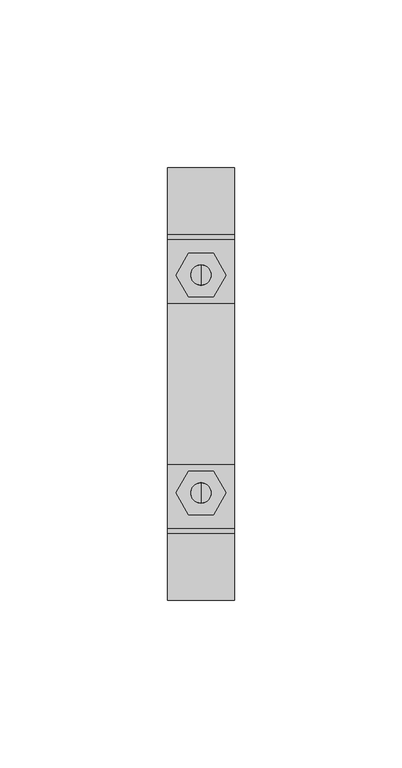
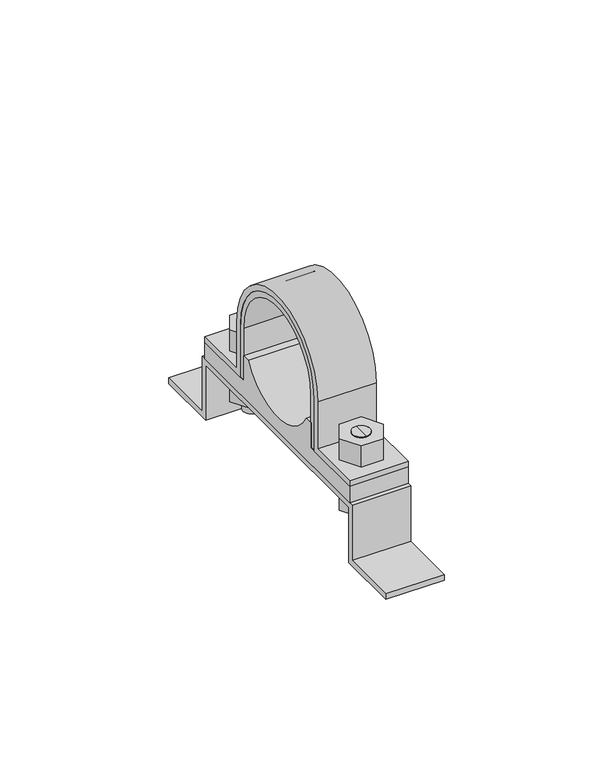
"""IFC4 building model written with IfcOpenShell, lengths in millimetres: valve geometry, Superfix DG3 Clamp (based on pipe) : Superfix DG3 Clamp (based on pipe)."""

from ifc_helpers import new_model, si_unit, point, frame, frame_2d, origin, place, context, project, spatial, polyline, circle_curve, trimmed, segment, composite_curve, outline, extrude, source, transform, mapped, element, save
from ifc_brep_helpers import plane_surface, cylinder_surface, advanced_brep


def valve_200e7f54(model_context):
    return source(origin(), model_context, "Body", "SolidModel", [
        advanced_brep(
        [(0.0, 35.5, 7.0), (0.0, 29.5, 7.0), (0.0, 29.5, 20.0), (0.0, 35.5, 20.0), (0.0, 32.5, 7.0)],
        [
            (0, 1, circle_curve(frame((0.0, 32.5, 7.0), z_axis=(0.0, 0.0, 1.0), x_axis=(0.0, 1.0, 0.0)), 3.0)),
            (1, 2),
            (2, 3, circle_curve(frame((0.0, 32.5, 20.0), z_axis=(0.0, 0.0, -1.0), x_axis=(0.0, 1.0, 0.0)), 3.0)),
            (3, 0),
            (1, 0, circle_curve(frame((0.0, 32.5, 7.0), z_axis=(0.0, 0.0, 1.0), x_axis=(0.0, 1.0, 0.0)), 3.0)),
            (3, 2, circle_curve(frame((0.0, 32.5, 20.0), z_axis=(0.0, 0.0, -1.0), x_axis=(0.0, 1.0, 0.0)), 3.0)),
            (0, 4),
            (4, 1),
        ],
        [
            cylinder_surface(frame((0.0, 32.5, 45.2806094), z_axis=(0.0, 0.0, 1.0), x_axis=(0.0, 1.0, 0.0)), 3.0),
            plane_surface(frame((0.0, 32.5, 7.0), z_axis=(0.0, 0.0, -1.0), x_axis=(0.0, 1.0, 0.0))),
            plane_surface(frame((13.75, -43.0, 20.0), z_axis=(0.0, 0.0, 1.0), x_axis=(-1.0, 0.0, 0.0))),
        ],
        [
            (0, [[1, 2, 3, 4]]),
            (0, [[5, -4, 6, -2]]),
            (1, [[-1, 7, 8]]),
            (1, [[-5, -8, -7]]),
            (2, [[-3, -6]]),
        ],
    ),
        advanced_brep(
        [(0.0, 29.5, 38.0), (0.0, 35.5, 38.0), (0.0, 35.5, 28.0), (0.0, 29.5, 28.0), (0.0, 32.5, 38.0)],
        [
            (0, 1, circle_curve(frame((0.0, 32.5, 38.0), z_axis=(0.0, 0.0, -1.0), x_axis=(0.0, 1.0, 0.0)), 3.0)),
            (1, 2),
            (2, 3, circle_curve(frame((0.0, 32.5, 28.0), z_axis=(0.0, 0.0, 1.0), x_axis=(0.0, 1.0, 0.0)), 3.0)),
            (3, 0),
            (1, 0, circle_curve(frame((0.0, 32.5, 38.0), z_axis=(0.0, 0.0, -1.0), x_axis=(0.0, 1.0, 0.0)), 3.0)),
            (3, 2, circle_curve(frame((0.0, 32.5, 28.0), z_axis=(0.0, 0.0, 1.0), x_axis=(0.0, 1.0, 0.0)), 3.0)),
            (0, 4),
            (4, 1),
        ],
        [
            cylinder_surface(frame((0.0, 32.5, 45.2806094), z_axis=(0.0, 0.0, 1.0), x_axis=(0.0, 1.0, 0.0)), 3.0),
            plane_surface(frame((0.0, 32.5, 38.0), z_axis=(0.0, 0.0, 1.0), x_axis=(0.0, 1.0, 0.0))),
            plane_surface(frame((13.75, 43.0, 28.0), z_axis=(0.0, 0.0, -1.0), x_axis=(-1.0, 0.0, 0.0))),
        ],
        [
            (0, [[1, 2, 3, 4]]),
            (0, [[5, -4, 6, -2]]),
            (1, [[-1, 7, 8]]),
            (1, [[-5, -8, -7]]),
            (2, [[-3, -6]]),
        ],
    ),
        advanced_brep(
        [(0.0, -35.5, 38.0), (0.0, -29.5, 38.0), (0.0, -29.5, 28.0), (0.0, -35.5, 28.0), (0.0, -32.5, 38.0)],
        [
            (0, 1, circle_curve(frame((0.0, -32.5, 38.0), z_axis=(0.0, 0.0, -1.0), x_axis=(0.0, -1.0, 0.0)), 3.0)),
            (1, 2),
            (2, 3, circle_curve(frame((0.0, -32.5, 28.0), z_axis=(0.0, 0.0, 1.0), x_axis=(0.0, -1.0, 0.0)), 3.0)),
            (3, 0),
            (1, 0, circle_curve(frame((0.0, -32.5, 38.0), z_axis=(0.0, 0.0, -1.0), x_axis=(0.0, -1.0, 0.0)), 3.0)),
            (3, 2, circle_curve(frame((0.0, -32.5, 28.0), z_axis=(0.0, 0.0, 1.0), x_axis=(0.0, -1.0, 0.0)), 3.0)),
            (0, 4),
            (4, 1),
        ],
        [
            cylinder_surface(frame((0.0, -32.5, 45.2806094), z_axis=(0.0, 0.0, -1.0), x_axis=(0.0, -1.0, 0.0)), 3.0),
            plane_surface(frame((0.0, -32.5, 38.0), z_axis=(0.0, 0.0, 1.0), x_axis=(0.0, -1.0, 0.0))),
            plane_surface(frame((13.75, 43.0, 28.0), z_axis=(0.0, 0.0, -1.0), x_axis=(-1.0, 0.0, 0.0))),
        ],
        [
            (0, [[1, 2, 3, 4]]),
            (0, [[5, -4, 6, -2]]),
            (1, [[-1, 7, 8]]),
            (1, [[-5, -8, -7]]),
            (2, [[-3, -6]]),
        ],
    ),
        advanced_brep(
        [(0.0, -29.5, 7.0), (0.0, -35.5, 7.0), (0.0, -35.5, 20.0), (0.0, -29.5, 20.0), (0.0, -32.5, 7.0)],
        [
            (0, 1, circle_curve(frame((0.0, -32.5, 7.0), z_axis=(0.0, 0.0, 1.0), x_axis=(0.0, -1.0, 0.0)), 3.0)),
            (1, 2),
            (2, 3, circle_curve(frame((0.0, -32.5, 20.0), z_axis=(0.0, 0.0, -1.0), x_axis=(0.0, -1.0, 0.0)), 3.0)),
            (3, 0),
            (1, 0, circle_curve(frame((0.0, -32.5, 7.0), z_axis=(0.0, 0.0, 1.0), x_axis=(0.0, -1.0, 0.0)), 3.0)),
            (3, 2, circle_curve(frame((0.0, -32.5, 20.0), z_axis=(0.0, 0.0, -1.0), x_axis=(0.0, -1.0, 0.0)), 3.0)),
            (0, 4),
            (4, 1),
        ],
        [
            cylinder_surface(frame((0.0, -32.5, 45.2806094), z_axis=(0.0, 0.0, -1.0), x_axis=(0.0, -1.0, 0.0)), 3.0),
            plane_surface(frame((0.0, -32.5, 7.0), z_axis=(0.0, 0.0, -1.0), x_axis=(0.0, -1.0, 0.0))),
            plane_surface(frame((13.75, -43.0, 20.0), z_axis=(0.0, 0.0, 1.0), x_axis=(-1.0, 0.0, 0.0))),
        ],
        [
            (0, [[1, 2, 3, 4]]),
            (0, [[5, -4, 6, -2]]),
            (1, [[-1, 7, 8]]),
            (1, [[-5, -8, -7]]),
            (2, [[-3, -6]]),
        ],
    ),
        extrude(outline(composite_curve([segment(trimmed(circle_curve(frame_2d((0.0, 47.0)), 22.0), [point((22.0, 47.0))], [point((-22.0, 47.0))], True, "CARTESIAN"), True, "CONTINUOUS"), segment(polyline([(-22.0, 47.0), (-22.0, 28.0), (-43.0, 28.0), (-43.0, 30.0), (-24.0, 30.0), (-24.0, 47.0)]), True, "CONTINUOUS"), segment(trimmed(circle_curve(frame_2d((0.0, 47.0)), 24.0), [point((-24.0, 47.0))], [point((24.0, 47.0))], False, "CARTESIAN"), True, "CONTINUOUS"), segment(polyline([(24.0, 47.0), (24.0, 30.0), (43.0, 30.0), (43.0, 28.0), (22.0, 28.0), (22.0, 47.0)]), True, "CONTINUOUS")], self_intersect=False)), frame((-10.0, 0.0, 0.0), z_axis=(1.0, 0.0, 0.0), x_axis=(0.0, 1.0, 0.0)), (0.0, 0.0, 1.0), 20.0),
        extrude(outline(polyline([(7.5055535, -32.5), (3.7527767, -39.0), (-3.7527767, -39.0), (-7.5055535, -32.5), (-3.7527767, -26.0), (3.7527767, -26.0), (7.5055535, -32.5)]), holes=[composite_curve([segment(trimmed(circle_curve(frame_2d((0.0, -32.5)), 3.0), [point((3.0, -32.5))], [point((-3.0, -32.5))], True, "CARTESIAN"), True, "CONTINUOUS"), segment(trimmed(circle_curve(frame_2d((0.0, -32.5)), 3.0), [point((-3.0, -32.5))], [point((3.0, -32.5))], True, "CARTESIAN"), True, "CONTINUOUS")], self_intersect=False)]), frame((0.0, 0.0, 30.0), z_axis=(0.0, 0.0, 1.0), x_axis=(1.0, 0.0, 0.0)), (0.0, 0.0, 1.0), 8.0),
        extrude(outline(polyline([(7.5055535, 32.5), (3.7527767, 26.0), (-3.7527767, 26.0), (-7.5055535, 32.5), (-3.7527767, 39.0), (3.7527767, 39.0), (7.5055535, 32.5)]), holes=[composite_curve([segment(trimmed(circle_curve(frame_2d((0.0, 32.5)), 3.0), [point((3.0, 32.5))], [point((-3.0, 32.5))], True, "CARTESIAN"), True, "CONTINUOUS"), segment(trimmed(circle_curve(frame_2d((0.0, 32.5)), 3.0), [point((-3.0, 32.5))], [point((3.0, 32.5))], True, "CARTESIAN"), True, "CONTINUOUS")], self_intersect=False)]), frame((0.0, 0.0, 30.0), z_axis=(0.0, 0.0, 1.0), x_axis=(1.0, 0.0, 0.0)), (0.0, 0.0, 1.0), 8.0),
        extrude(outline(polyline([(7.5055535, -32.5), (3.7527767, -39.0), (-3.7527767, -39.0), (-7.5055535, -32.5), (-3.7527767, -26.0), (3.7527767, -26.0), (7.5055535, -32.5)]), holes=[composite_curve([segment(trimmed(circle_curve(frame_2d((0.0, -32.5)), 3.0), [point((3.0, -32.5))], [point((-3.0, -32.5))], True, "CARTESIAN"), True, "CONTINUOUS"), segment(trimmed(circle_curve(frame_2d((0.0, -32.5)), 3.0), [point((-3.0, -32.5))], [point((3.0, -32.5))], True, "CARTESIAN"), True, "CONTINUOUS")], self_intersect=False)]), frame((0.0, 0.0, 12.0), z_axis=(0.0, 0.0, 1.0), x_axis=(1.0, 0.0, 0.0)), (0.0, 0.0, 1.0), 8.0),
        extrude(outline(polyline([(7.5055535, 32.5), (3.7527767, 26.0), (-3.7527767, 26.0), (-7.5055535, 32.5), (-3.7527767, 39.0), (3.7527767, 39.0), (7.5055535, 32.5)]), holes=[composite_curve([segment(trimmed(circle_curve(frame_2d((0.0, 32.5)), 3.0), [point((3.0, 32.5))], [point((-3.0, 32.5))], True, "CARTESIAN"), True, "CONTINUOUS"), segment(trimmed(circle_curve(frame_2d((0.0, 32.5)), 3.0), [point((-3.0, 32.5))], [point((3.0, 32.5))], True, "CARTESIAN"), True, "CONTINUOUS")], self_intersect=False)]), frame((0.0, 0.0, 12.0), z_axis=(0.0, 0.0, 1.0), x_axis=(1.0, 0.0, 0.0)), (0.0, 0.0, 1.0), 8.0),
        extrude(outline(composite_curve([segment(polyline([(-43.0, 22.0), (-43.0, 28.0), (-20.0, 28.0), (-20.0, 37.0), (-17.3205081, 37.0)]), True, "CONTINUOUS"), segment(trimmed(circle_curve(frame_2d((0.0, 47.0)), 20.0), [point((-17.3205081, 37.0))], [point((17.3205081, 37.0))], True, "CARTESIAN"), True, "CONTINUOUS"), segment(polyline([(17.3205081, 37.0), (20.0, 37.0), (20.0, 28.0), (43.0, 28.0), (43.0, 22.0), (-43.0, 22.0)]), True, "CONTINUOUS")], self_intersect=False)), frame((-10.0, 0.0, 0.0), z_axis=(1.0, 0.0, 0.0), x_axis=(0.0, 1.0, 0.0)), (0.0, 0.0, 1.0), 20.0),
        extrude(outline(polyline([(-64.5, 2.0), (-44.5, 2.0), (-44.5, 22.0), (0.0, 22.0), (44.5, 22.0), (44.5, 2.0), (64.5, 2.0), (64.5, 0.0), (42.5, 0.0), (42.5, 20.0), (0.0, 20.0), (-42.5, 20.0), (-42.5, 0.0), (-64.5, 0.0), (-64.5, 2.0)])), frame((-10.0, 0.0, 0.0), z_axis=(1.0, 0.0, 0.0), x_axis=(0.0, 1.0, 0.0)), (0.0, 0.0, 1.0), 20.0),
        extrude(outline(composite_curve([segment(trimmed(circle_curve(frame_2d((0.0, 47.0)), 20.0), [point((20.0, 47.0))], [point((-20.0, 47.0))], True, "CARTESIAN"), True, "CONTINUOUS"), segment(polyline([(-20.0, 47.0), (-20.0, 28.0), (-22.0, 28.0), (-22.0, 47.0)]), True, "CONTINUOUS"), segment(trimmed(circle_curve(frame_2d((0.0, 47.0)), 22.0), [point((-22.0, 47.0))], [point((22.0, 47.0))], False, "CARTESIAN"), True, "CONTINUOUS"), segment(polyline([(22.0, 47.0), (22.0, 28.0), (20.0, 28.0), (20.0, 47.0)]), True, "CONTINUOUS")], self_intersect=False)), frame((-10.0, 0.0, 0.0), z_axis=(1.0, 0.0, 0.0), x_axis=(0.0, 1.0, 0.0)), (0.0, 0.0, 1.0), 20.0),
    ])


if __name__ == "__main__":
    model = new_model("IFC4")
    model_context = context("Model", 3, world=origin())
    ifc_project = project(units=[si_unit("LENGTHUNIT", "METRE", prefix="MILLI")], contexts=[model_context])
    site = spatial("IfcSite", under=ifc_project)
    building = spatial("IfcBuilding", under=site)
    placement = place(None, origin())
    valve_shape = valve_200e7f54(model_context)
    element("IfcValve", 1, ObjectType="Superfix DG3 Clamp (based on pipe) : Superfix DG3 Clamp (based on pipe)", at=placement, inside=building, context=model_context, shape_type="MappedRepresentation", body=[
        mapped(valve_shape, transform((0.0, 0.0, 0.0), x_axis=(1.0, 0.0, 0.0), y_axis=(0.0, 1.0, 0.0), z_axis=(0.0, 0.0, 1.0))),
    ])
    save(model, "model.ifc")
